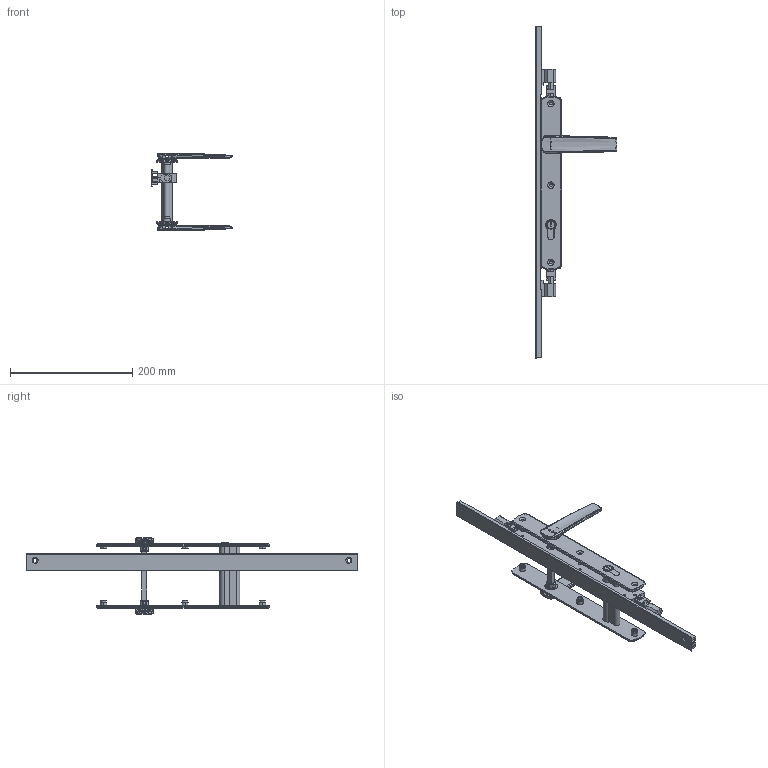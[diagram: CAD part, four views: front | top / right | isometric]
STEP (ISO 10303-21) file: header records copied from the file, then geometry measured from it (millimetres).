
FILE_DESCRIPTION (( 'STEP AP214' ), '1' );
FILE_NAME ('TPL-W-EU-626-U 06Nov2024.STEP', '2024-11-27T22:04:28', ( '' ), ( '' ), 'SwSTEP 2.0', 'SolidWorks 2023', '' );
FILE_SCHEMA (( 'AUTOMOTIVE_DESIGN' ));
Length unit declared in the file: millimetre
Products named in the file (24): Copy of LKC-585 Rotator body zinc^Copy of TPGen2 handle keyed external zinc - simplified_TPL-W-EU-126 04Nov2024; Copy of TPLGen2 lock body keyed assembly^TPL-W-EU-126 04Nov2024_Bolts retracted; Copy of Adapter CnE - simplfied^TPL-W-EU-126 04Nov2024_26mm backset; Copy of LKC-586 Spindle square 8mm with M4 hole^Copy of TPGen2 handle keyed internal zinc - simplified_TPL-W-EU-126 04Nov2024_100mm; Copy of TPGen2 handle keyed external zinc - simplified^TPL-W-EU-126 04Nov2024_Left; Copy of TPLGen2 lock body keyed^Copy of TPLGen2 lock body keyed assembly_TPL-W-EU-126 04Nov2024; Copy of LKC-505 Swing handle zinc - simplified^Copy of TPGen2 handle keyed external zinc - simplified_TPL-W-EU-126 04Nov2024; TPL-W-EU-626-U 06Nov2024; Copy of LKC-584 Pivot body zinc - simplified^Copy of TPGen2 handle keyed external zinc - simplified_TPL-W-EU-126 04Nov2024; Copy (2) of COV-112-B Cover B suit TPLGen2 standard range^TPL-W-EU-126 04Nov2024_2870mm; Copy of COV-112-C Cover C TPLGen2 Lock body^TPL-W-EU-126 04Nov2024; Copy of COV-112-A Cover A suit TPLGen2 standard range^TPL-W-EU-126 04Nov2024_2870mm; Copy of TPGen2 handle keyed internal zinc - simplified^TPL-W-EU-126 04Nov2024_Right; Copy of Copy of Copy of LKC-531 Lock twinpoint transmission rod wood system^TPL-W-EU-126 04Nov2024_Standard Range 2891.7mm; TPLGen2 push rod - simplified^Copy of TPLGen2 lock body keyed assembly_TPL-W-EU-126 04Nov2024_Female thread M10; Bolt.step; Copy of Adapter DnF - simplfied^TPL-W-EU-126 04Nov2024_26mm backset; Copy of LKC-584 Pivot body zinc - simplified^Copy of TPGen2 handle keyed internal zinc - simplified_TPL-W-EU-126 04Nov2024; Copy of LKC-514 Escutcheon plate keyed external 285mm long zinc - simplified^Copy of TPGen2 handle keyed external zinc - simplified_TPL-W-EU-126 04Nov2024; Copy of LKC-585 Rotator body zinc^Copy of TPGen2 handle keyed internal zinc - simplified_TPL-W-EU-126 04Nov2024; Copy of LKC-512 Escutcheon plate keyed internal 285mm long zinc - simplified^Copy of TPGen2 handle keyed internal zinc - simplified_TPL-W-EU-126 04Nov2024; Copy of TPL-W-EU-131 04Nov2024^TPL-W-EU-126 04Nov2024_TPL-050-105 Right; Copy of Copy of LKC-531 Lock twinpoint transmission rod wood system^TPL-W-EU-126 04Nov2024_Standard Range 2891.7mm; Copy of LKC-505 Swing handle zinc - simplified^Copy of TPGen2 handle keyed internal zinc - simplified_TPL-W-EU-126 04Nov2024
Assembly tree (21 placements, depth 3):
  TPL-W-EU-626-U 06Nov2024
    Copy of TPLGen2 lock body keyed assembly^TPL-W-EU-126 04Nov2024_Bolts retracted
      Copy of TPLGen2 lock body keyed^Copy of TPLGen2 lock body keyed assembly_TPL-W-EU-126 04Nov2024
      TPLGen2 push rod - simplified^Copy of TPLGen2 lock body keyed assembly_TPL-W-EU-126 04Nov2024_Female thread M10  x2
    Copy of TPGen2 handle keyed internal zinc - simplified^TPL-W-EU-126 04Nov2024_Right
      Copy of LKC-512 Escutcheon plate keyed internal 285mm long zinc - simplified^Copy of TPGen2 handle keyed internal zinc - simplified_TPL-W-EU-126 04Nov2024
      Copy of LKC-505 Swing handle zinc - simplified^Copy of TPGen2 handle keyed internal zinc - simplified_TPL-W-EU-126 04Nov2024
      Copy of LKC-585 Rotator body zinc^Copy of TPGen2 handle keyed internal zinc - simplified_TPL-W-EU-126 04Nov2024
      Copy of LKC-586 Spindle square 8mm with M4 hole^Copy of TPGen2 handle keyed internal zinc - simplified_TPL-W-EU-126 04Nov2024_100mm
      Copy of LKC-584 Pivot body zinc - simplified^Copy of TPGen2 handle keyed internal zinc - simplified_TPL-W-EU-126 04Nov2024
    Copy of TPGen2 handle keyed external zinc - simplified^TPL-W-EU-126 04Nov2024_Left
      Copy of LKC-514 Escutcheon plate keyed external 285mm long zinc - simplified^Copy of TPGen2 handle keyed external zinc - simplified_TPL-W-EU-126 04Nov2024
      Copy of LKC-505 Swing handle zinc - simplified^Copy of TPGen2 handle keyed external zinc - simplified_TPL-W-EU-126 04Nov2024
      Copy of LKC-585 Rotator body zinc^Copy of TPGen2 handle keyed external zinc - simplified_TPL-W-EU-126 04Nov2024
      Copy of LKC-584 Pivot body zinc - simplified^Copy of TPGen2 handle keyed external zinc - simplified_TPL-W-EU-126 04Nov2024
    Copy of TPL-W-EU-131 04Nov2024^TPL-W-EU-126 04Nov2024_TPL-050-105 Right
    Copy of COV-112-C Cover C TPLGen2 Lock body^TPL-W-EU-126 04Nov2024
    Copy of Copy of LKC-531 Lock twinpoint transmission rod wood system^TPL-W-EU-126 04Nov2024_Standard Range 2891.7mm
    Copy of Copy of Copy of LKC-531 Lock twinpoint transmission rod wood system^TPL-W-EU-126 04Nov2024_Standard Range 2891.7mm
    Copy of Adapter DnF - simplfied^TPL-W-EU-126 04Nov2024_26mm backset
    Copy of Adapter CnE - simplfied^TPL-W-EU-126 04Nov2024_26mm backset
  Copy (2) of COV-112-B Cover B suit TPLGen2 standard range^TPL-W-EU-126 04Nov2024_2870mm
  Copy of COV-112-A Cover A suit TPLGen2 standard range^TPL-W-EU-126 04Nov2024_2870mm
  Bolt.step
Bounding box: 134.12 x 544 x 125.92 mm (x, y, z)
Volume: 373586.2 mm3; surface area: 183826.1 mm2
Topology: 18 solids, 18 shells, 1388 faces, 3374 edges, 2064 vertices
Faces by surface type: bspline 417, plane 391, cylinder 334, cone 132, torus 98, sphere 16
Entity records: 52250 total; most frequent: CARTESIAN_POINT 22800, ORIENTED_EDGE 6552, DIRECTION 5314, EDGE_CURVE 3276, AXIS2_PLACEMENT_3D 2058, VERTEX_POINT 2004, EDGE_LOOP 1486, FACE_OUTER_BOUND 1353
